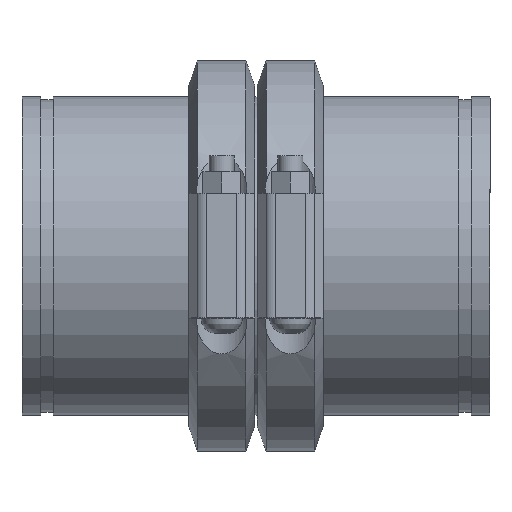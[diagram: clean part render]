
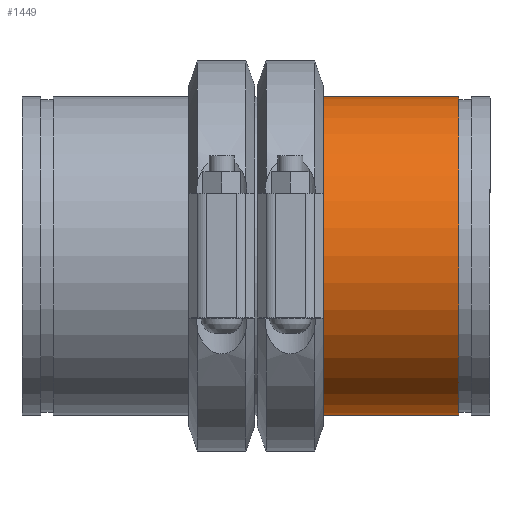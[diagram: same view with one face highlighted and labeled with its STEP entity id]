
A CAD part, top view. The second image highlights one B-rep face of the part: STEP entity #1449.
In plain terms, the highlighted cylindrical face has radius 161.925 mm (diameter 323.85 mm), a full revolution.
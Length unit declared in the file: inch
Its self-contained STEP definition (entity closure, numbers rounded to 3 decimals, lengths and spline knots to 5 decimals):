
#71=LINE('',#2289,#158);
#158=VECTOR('',#1852,6.375);
#245=CYLINDRICAL_SURFACE('',#1638,6.375);
#302=FACE_OUTER_BOUND('',#387,.T.);
#387=EDGE_LOOP('',(#948,#949,#950,#951,#952,#953));
#495=CIRCLE('',#1636,6.375);
#496=CIRCLE('',#1637,6.375);
#497=CIRCLE('',#1639,6.375);
#498=CIRCLE('',#1640,6.375);
#587=VERTEX_POINT('',#2280);
#588=VERTEX_POINT('',#2281);
#589=VERTEX_POINT('',#2285);
#590=VERTEX_POINT('',#2286);
#732=EDGE_CURVE('',#587,#588,#495,.T.);
#733=EDGE_CURVE('',#588,#587,#496,.T.);
#734=EDGE_CURVE('',#589,#590,#497,.T.);
#735=EDGE_CURVE('',#590,#589,#498,.T.);
#736=EDGE_CURVE('',#590,#588,#71,.T.);
#948=ORIENTED_EDGE('',*,*,#734,.F.);
#949=ORIENTED_EDGE('',*,*,#735,.F.);
#950=ORIENTED_EDGE('',*,*,#736,.T.);
#951=ORIENTED_EDGE('',*,*,#733,.T.);
#952=ORIENTED_EDGE('',*,*,#732,.T.);
#953=ORIENTED_EDGE('',*,*,#736,.F.);
#1449=ADVANCED_FACE('',(#302),#245,.T.);
#1636=AXIS2_PLACEMENT_3D('',#2282,#1842,#1843);
#1637=AXIS2_PLACEMENT_3D('',#2283,#1844,#1845);
#1638=AXIS2_PLACEMENT_3D('',#2284,#1846,#1847);
#1639=AXIS2_PLACEMENT_3D('',#2287,#1848,#1849);
#1640=AXIS2_PLACEMENT_3D('',#2288,#1850,#1851);
#1842=DIRECTION('center_axis',(-1.,0.,0.));
#1843=DIRECTION('ref_axis',(0.,0.,1.));
#1844=DIRECTION('center_axis',(-1.,0.,0.));
#1845=DIRECTION('ref_axis',(0.,0.,1.));
#1846=DIRECTION('center_axis',(-1.,0.,0.));
#1847=DIRECTION('ref_axis',(0.,1.,0.));
#1848=DIRECTION('center_axis',(-1.,0.,0.));
#1849=DIRECTION('ref_axis',(0.,0.,1.));
#1850=DIRECTION('center_axis',(-1.,0.,0.));
#1851=DIRECTION('ref_axis',(0.,0.,1.));
#1852=DIRECTION('',(1.,0.,0.));
#2280=CARTESIAN_POINT('',(2.75,6.375,0.));
#2281=CARTESIAN_POINT('',(2.75,-6.375,0.));
#2282=CARTESIAN_POINT('Origin',(2.75,0.,0.));
#2283=CARTESIAN_POINT('Origin',(2.75,0.,0.));
#2284=CARTESIAN_POINT('Origin',(0.,0.,
0.));
#2285=CARTESIAN_POINT('',(-2.75,6.375,0.));
#2286=CARTESIAN_POINT('',(-2.75,-6.375,0.));
#2287=CARTESIAN_POINT('Origin',(-2.75,0.,0.));
#2288=CARTESIAN_POINT('Origin',(-2.75,0.,0.));
#2289=CARTESIAN_POINT('',(0.,-6.375,0.));
